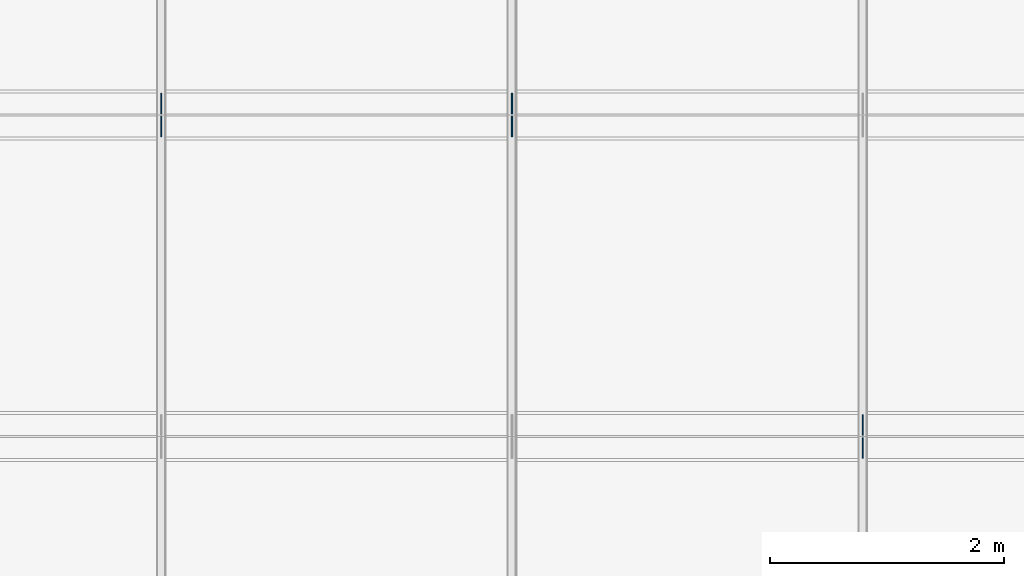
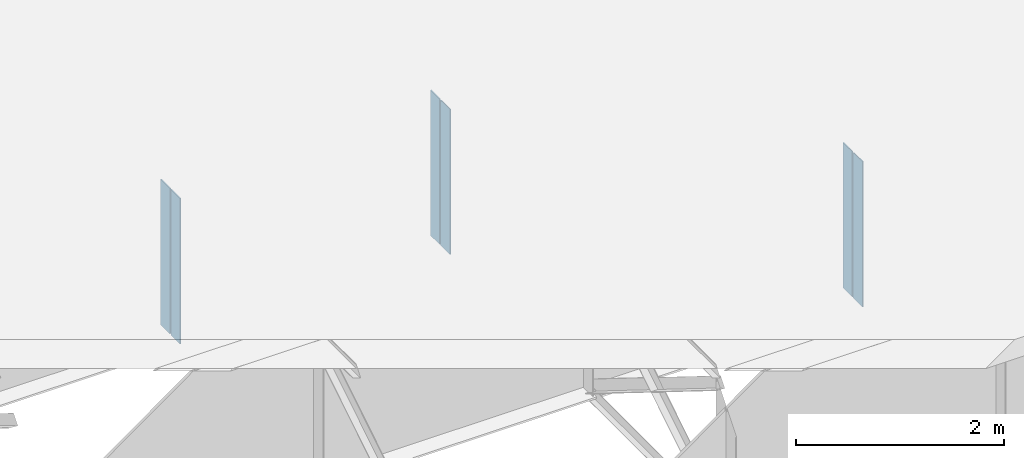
# One storey, part 6 of 11: 6 plates.
"""IFC4 building model written with IfcOpenShell, lengths in metres."""

from ifc_helpers import new_model, si_unit, frame, origin, origin_with_axes, origin_2d_with_axis, place, context, subcontext, project, spatial, rectangle, extrude, element, save


model = new_model("IFC4")

# Units and contexts
model_context = context("Model", 3, precision=1e-05, world=origin())
body_context = subcontext(model_context, "Body", "Model", "MODEL_VIEW")
ifc_project = project(units=[si_unit("LENGTHUNIT", "METRE"), si_unit("AREAUNIT", "SQUARE_METRE"), si_unit("VOLUMEUNIT", "CUBIC_METRE"), si_unit("PLANEANGLEUNIT", "RADIAN")], contexts=[model_context])

# Site, building, storey
site_placement = place(None, origin_with_axes())
site = spatial("IfcSite", under=ifc_project, at=site_placement, Name="Default Site")
building_placement = place(site_placement, origin_with_axes())
building = spatial("IfcBuilding", under=site, at=building_placement, Name="Bridge Structure")
storey_placement = place(building_placement, origin_with_axes())
storey = spatial("IfcBuildingStorey", under=building, at=storey_placement, Name="Superstructure")

# Plates
for number, where, z_axis, x_axis, name in (
    (1, (15.0, -1.27675, -0.855), (0.0, 0.0, 1.0), (1.0, 0.0, 0.0), "Intermediate Stiffener 2"),
    (2, (15.0, -1.47325, -0.855), (0.0, 0.0, 1.0), (1.0, 0.0, 0.0), "Intermediate Stiffener 2"),
    (3, (9.0, 1.47325, -0.855), (0.0, 0.0, 1.0), (1.0, 0.0, 0.0), "Intermediate Stiffener 3"),
    (4, (9.0, 1.27675, -0.855), (0.0, 0.0, 1.0), (1.0, 0.0, 0.0), "Intermediate Stiffener 3"),
    (5, (12.0, 1.47325, -0.855), (0.0, 0.0, 1.0), (1.0, 0.0, 0.0), "Intermediate Stiffener 3"),
    (6, (12.0, 1.27675, -0.855), (0.0, 0.0, 1.0), (1.0, 0.0, 0.0), "Intermediate Stiffener 3"),
):
    element("IfcPlate", number, at=place(storey_placement, frame(where, z_axis=z_axis, x_axis=x_axis)), inside=storey, Name=name, context=body_context, shape_type="SweptSolid", body=[
        extrude(rectangle(XDim=0.012, YDim=0.1785, at=origin_2d_with_axis()), origin_with_axes(), (0.0, 0.0, 1.0), 1.71),
    ])

save(model, "model.ifc")
